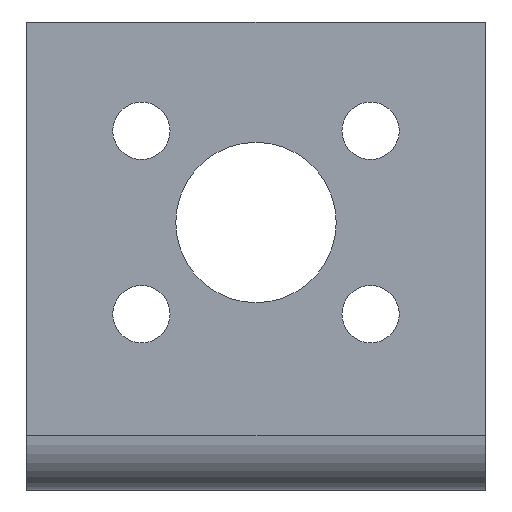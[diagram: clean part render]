
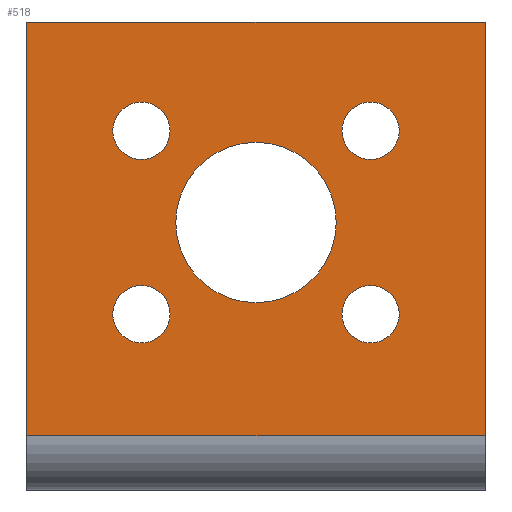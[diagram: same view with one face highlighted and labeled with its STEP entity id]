
A CAD part, front view. The second image highlights one B-rep face of the part: STEP entity #518.
In plain terms, the highlighted planar face has unit normal (0, -1, 0).
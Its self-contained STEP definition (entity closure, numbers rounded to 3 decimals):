
#3 = CARTESIAN_POINT ( 'NONE',  ( 30., 33.156, 11.344 ) ) ;
#7 = DIRECTION ( 'NONE',  ( 1., 0., 0. ) ) ;
#39 = EDGE_CURVE ( 'NONE', #1589, #705, #139, .T. ) ;
#61 = ORIENTED_EDGE ( 'NONE', *, *, #693, .T. ) ;
#71 = CARTESIAN_POINT ( 'NONE',  ( 0., 33.156, 36.844 ) ) ;
#76 = FACE_BOUND ( 'NONE', #1650, .T. ) ;
#131 = DIRECTION ( 'NONE',  ( 1., 0., 0. ) ) ;
#139 = CIRCLE ( 'NONE', #1585, 7. ) ;
#153 = CIRCLE ( 'NONE', #1351, 2.5 ) ;
#157 = DIRECTION ( 'NONE',  ( 1., 0., 0. ) ) ;
#167 = FACE_BOUND ( 'NONE', #633, .T. ) ;
#173 = DIRECTION ( 'NONE',  ( 1., 0., 0. ) ) ;
#208 = DIRECTION ( 'NONE',  ( 0., 1., 0. ) ) ;
#225 = CIRCLE ( 'NONE', #325, 2.5 ) ;
#270 = AXIS2_PLACEMENT_3D ( 'NONE', #399, #1749, #1447 ) ;
#274 = CARTESIAN_POINT ( 'NONE',  ( 30., 33.156, 27.344 ) ) ;
#275 = EDGE_CURVE ( 'NONE', #705, #1589, #1886, .T. ) ;
#307 = FACE_BOUND ( 'NONE', #897, .T. ) ;
#325 = AXIS2_PLACEMENT_3D ( 'NONE', #1904, #1777, #7 ) ;
#341 = CARTESIAN_POINT ( 'NONE',  ( 10., 33.156, 27.344 ) ) ;
#344 = EDGE_CURVE ( 'NONE', #1773, #987, #1320, .T. ) ;
#368 = LINE ( 'NONE', #1024, #1444 ) ;
#382 = AXIS2_PLACEMENT_3D ( 'NONE', #3, #1043, #157 ) ;
#383 = VERTEX_POINT ( 'NONE', #714 ) ;
#396 = AXIS2_PLACEMENT_3D ( 'NONE', #1719, #846, #1426 ) ;
#399 = CARTESIAN_POINT ( 'NONE',  ( 30., 33.156, 11.344 ) ) ;
#401 = DIRECTION ( 'NONE',  ( 0., 1., 0. ) ) ;
#405 = ORIENTED_EDGE ( 'NONE', *, *, #499, .T. ) ;
#407 = CARTESIAN_POINT ( 'NONE',  ( 13., 33.156, 19.344 ) ) ;
#453 = ORIENTED_EDGE ( 'NONE', *, *, #275, .T. ) ;
#462 = VECTOR ( 'NONE', #958, 1000. ) ;
#466 = EDGE_CURVE ( 'NONE', #1728, #480, #900, .T. ) ;
#472 = DIRECTION ( 'NONE',  ( 1., 0., 0. ) ) ;
#476 = FACE_BOUND ( 'NONE', #1627, .T. ) ;
#480 = VERTEX_POINT ( 'NONE', #1309 ) ;
#492 = ORIENTED_EDGE ( 'NONE', *, *, #344, .F. ) ;
#499 = EDGE_CURVE ( 'NONE', #1683, #782, #881, .T. ) ;
#518 = ADVANCED_FACE ( 'NONE', ( #944, #76, #167, #307, #476, #1656 ), #1479, .T. ) ;
#526 = AXIS2_PLACEMENT_3D ( 'NONE', #341, #1514, #173 ) ;
#536 = VECTOR ( 'NONE', #825, 1000. ) ;
#567 = ORIENTED_EDGE ( 'NONE', *, *, #1695, .F. ) ;
#586 = DIRECTION ( 'NONE',  ( 0., 1., 0. ) ) ;
#633 = EDGE_LOOP ( 'NONE', ( #877, #405 ) ) ;
#634 = CARTESIAN_POINT ( 'NONE',  ( 0., 33.156, 36.844 ) ) ;
#641 = CARTESIAN_POINT ( 'NONE',  ( 27.5, 33.156, 27.344 ) ) ;
#658 = CARTESIAN_POINT ( 'NONE',  ( 32.5, 33.156, 11.344 ) ) ;
#692 = CARTESIAN_POINT ( 'NONE',  ( 20., 33.156, 19.344 ) ) ;
#693 = EDGE_CURVE ( 'NONE', #1192, #1459, #1070, .T. ) ;
#705 = VERTEX_POINT ( 'NONE', #407 ) ;
#714 = CARTESIAN_POINT ( 'NONE',  ( 40., 33.156, 36.844 ) ) ;
#720 = EDGE_CURVE ( 'NONE', #782, #1683, #153, .T. ) ;
#773 = CARTESIAN_POINT ( 'NONE',  ( 40., 33.156, 36.844 ) ) ;
#782 = VERTEX_POINT ( 'NONE', #1350 ) ;
#825 = DIRECTION ( 'NONE',  ( 0., 0., 1. ) ) ;
#833 = DIRECTION ( 'NONE',  ( 1., 0., 0. ) ) ;
#846 = DIRECTION ( 'NONE',  ( 0., 1., 0. ) ) ;
#848 = EDGE_CURVE ( 'NONE', #971, #1155, #225, .T. ) ;
#853 = EDGE_CURVE ( 'NONE', #480, #1728, #914, .T. ) ;
#877 = ORIENTED_EDGE ( 'NONE', *, *, #720, .T. ) ;
#879 = CARTESIAN_POINT ( 'NONE',  ( 30., 33.156, 27.344 ) ) ;
#881 = CIRCLE ( 'NONE', #1329, 2.5 ) ;
#892 = DIRECTION ( 'NONE',  ( 0., -1., 0. ) ) ;
#897 = EDGE_LOOP ( 'NONE', ( #1841, #453 ) ) ;
#900 = CIRCLE ( 'NONE', #270, 2.5 ) ;
#914 = CIRCLE ( 'NONE', #382, 2.5 ) ;
#915 = EDGE_LOOP ( 'NONE', ( #492, #1518, #567, #1382 ) ) ;
#944 = FACE_BOUND ( 'NONE', #1566, .T. ) ;
#958 = DIRECTION ( 'NONE',  ( 1., 0., 0. ) ) ;
#967 = EDGE_CURVE ( 'NONE', #1459, #1192, #1711, .T. ) ;
#971 = VERTEX_POINT ( 'NONE', #1787 ) ;
#983 = DIRECTION ( 'NONE',  ( 0., 1., 0. ) ) ;
#987 = VERTEX_POINT ( 'NONE', #634 ) ;
#990 = ORIENTED_EDGE ( 'NONE', *, *, #1645, .T. ) ;
#1024 = CARTESIAN_POINT ( 'NONE',  ( 0., 33.156, 0.737 ) ) ;
#1041 = CARTESIAN_POINT ( 'NONE',  ( 7.5, 33.156, 27.344 ) ) ;
#1043 = DIRECTION ( 'NONE',  ( 0., 1., 0. ) ) ;
#1044 = DIRECTION ( 'NONE',  ( 1., 0., 0. ) ) ;
#1070 = CIRCLE ( 'NONE', #1252, 2.5 ) ;
#1155 = VERTEX_POINT ( 'NONE', #1236 ) ;
#1162 = DIRECTION ( 'NONE',  ( 1., 0., 0. ) ) ;
#1167 = CARTESIAN_POINT ( 'NONE',  ( 10., 33.156, 27.344 ) ) ;
#1187 = CARTESIAN_POINT ( 'NONE',  ( 27., 33.156, 19.344 ) ) ;
#1192 = VERTEX_POINT ( 'NONE', #1581 ) ;
#1209 = CARTESIAN_POINT ( 'NONE',  ( 10., 33.156, 11.344 ) ) ;
#1236 = CARTESIAN_POINT ( 'NONE',  ( 7.5, 33.156, 11.344 ) ) ;
#1252 = AXIS2_PLACEMENT_3D ( 'NONE', #1167, #586, #131 ) ;
#1260 = ORIENTED_EDGE ( 'NONE', *, *, #466, .T. ) ;
#1309 = CARTESIAN_POINT ( 'NONE',  ( 27.5, 33.156, 11.344 ) ) ;
#1320 = LINE ( 'NONE', #71, #536 ) ;
#1329 = AXIS2_PLACEMENT_3D ( 'NONE', #879, #1474, #1340 ) ;
#1340 = DIRECTION ( 'NONE',  ( 1., 0., 0. ) ) ;
#1350 = CARTESIAN_POINT ( 'NONE',  ( 32.5, 33.156, 27.344 ) ) ;
#1351 = AXIS2_PLACEMENT_3D ( 'NONE', #274, #401, #1162 ) ;
#1382 = ORIENTED_EDGE ( 'NONE', *, *, #1850, .F. ) ;
#1411 = ORIENTED_EDGE ( 'NONE', *, *, #853, .T. ) ;
#1426 = DIRECTION ( 'NONE',  ( 1., 0., 0. ) ) ;
#1432 = VERTEX_POINT ( 'NONE', #1454 ) ;
#1444 = VECTOR ( 'NONE', #1044, 1000. ) ;
#1447 = DIRECTION ( 'NONE',  ( 1., 0., 0. ) ) ;
#1454 = CARTESIAN_POINT ( 'NONE',  ( 40., 33.156, 0.737 ) ) ;
#1459 = VERTEX_POINT ( 'NONE', #1041 ) ;
#1460 = EDGE_CURVE ( 'NONE', #1773, #1432, #368, .T. ) ;
#1474 = DIRECTION ( 'NONE',  ( 0., 1., 0. ) ) ;
#1479 = PLANE ( 'NONE',  #1720 ) ;
#1509 = CIRCLE ( 'NONE', #1697, 2.5 ) ;
#1514 = DIRECTION ( 'NONE',  ( 0., 1., 0. ) ) ;
#1518 = ORIENTED_EDGE ( 'NONE', *, *, #1460, .T. ) ;
#1530 = CARTESIAN_POINT ( 'NONE',  ( 0., 33.156, 36.844 ) ) ;
#1531 = DIRECTION ( 'NONE',  ( 0., 0., -1. ) ) ;
#1556 = VECTOR ( 'NONE', #1531, 1000. ) ;
#1566 = EDGE_LOOP ( 'NONE', ( #1641, #990 ) ) ;
#1581 = CARTESIAN_POINT ( 'NONE',  ( 12.5, 33.156, 27.344 ) ) ;
#1585 = AXIS2_PLACEMENT_3D ( 'NONE', #692, #983, #833 ) ;
#1589 = VERTEX_POINT ( 'NONE', #1187 ) ;
#1627 = EDGE_LOOP ( 'NONE', ( #61, #1901 ) ) ;
#1641 = ORIENTED_EDGE ( 'NONE', *, *, #848, .T. ) ;
#1645 = EDGE_CURVE ( 'NONE', #1155, #971, #1509, .T. ) ;
#1650 = EDGE_LOOP ( 'NONE', ( #1260, #1411 ) ) ;
#1656 = FACE_OUTER_BOUND ( 'NONE', #915, .T. ) ;
#1683 = VERTEX_POINT ( 'NONE', #641 ) ;
#1690 = LINE ( 'NONE', #773, #1556 ) ;
#1695 = EDGE_CURVE ( 'NONE', #383, #1432, #1690, .T. ) ;
#1697 = AXIS2_PLACEMENT_3D ( 'NONE', #1209, #208, #472 ) ;
#1711 = CIRCLE ( 'NONE', #526, 2.5 ) ;
#1712 = LINE ( 'NONE', #1530, #462 ) ;
#1719 = CARTESIAN_POINT ( 'NONE',  ( 20., 33.156, 19.344 ) ) ;
#1720 = AXIS2_PLACEMENT_3D ( 'NONE', #1769, #892, #1912 ) ;
#1728 = VERTEX_POINT ( 'NONE', #658 ) ;
#1749 = DIRECTION ( 'NONE',  ( 0., 1., 0. ) ) ;
#1769 = CARTESIAN_POINT ( 'NONE',  ( 0., 33.156, 36.844 ) ) ;
#1773 = VERTEX_POINT ( 'NONE', #1821 ) ;
#1777 = DIRECTION ( 'NONE',  ( 0., 1., 0. ) ) ;
#1787 = CARTESIAN_POINT ( 'NONE',  ( 12.5, 33.156, 11.344 ) ) ;
#1821 = CARTESIAN_POINT ( 'NONE',  ( 0., 33.156, 0.737 ) ) ;
#1841 = ORIENTED_EDGE ( 'NONE', *, *, #39, .T. ) ;
#1850 = EDGE_CURVE ( 'NONE', #987, #383, #1712, .T. ) ;
#1886 = CIRCLE ( 'NONE', #396, 7. ) ;
#1901 = ORIENTED_EDGE ( 'NONE', *, *, #967, .T. ) ;
#1904 = CARTESIAN_POINT ( 'NONE',  ( 10., 33.156, 11.344 ) ) ;
#1912 = DIRECTION ( 'NONE',  ( -1., 0., 0. ) ) ;
